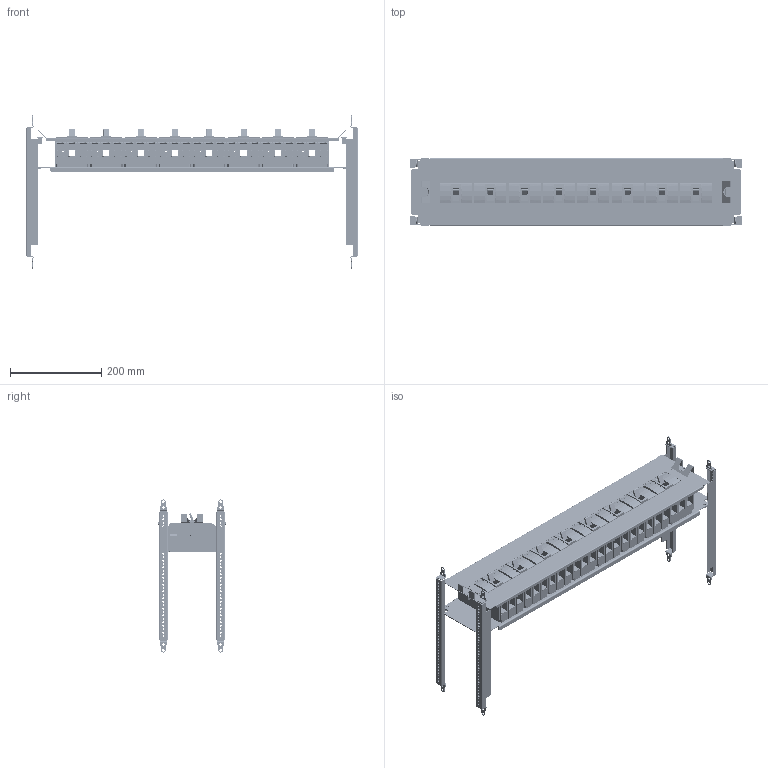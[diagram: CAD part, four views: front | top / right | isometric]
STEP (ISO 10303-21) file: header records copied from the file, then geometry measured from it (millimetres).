
FILE_DESCRIPTION(('CAx-IF Rec.Pracs.---Model Styling and Organization---1.2---2011-12-15','CAx-IF Rec.Pracs.---Geometric and Assembly Validation Properties---4.1---2014-06-16','CAx-IF Rec.Pracs.---PMI Polyline Presentation---2.0---2013-05-24'),'2;1');
FILE_NAME('R5PKIB7V81111.stp','2021-07-29T03:15:32+03:00',(''),(''),'STEP Interface 4.4 by CT CoreTechnologie','3D_Evolution4.4 by CT CoreTechnologie','');
FILE_SCHEMA(('AUTOMOTIVE_DESIGN { 1 0 10303 214 1 1 1 1 }'));
Length unit declared in the file: millimetre
Products named in the file (1): R5PKIB7V81111
Bounding box: 726 x 148 x 335 mm (x, y, z)
Surface area: 1137092.5 mm2 (no closed solid volume)
Topology: 0 solids, 120 shells, 6160 faces, 22616 edges, 16230 vertices
Faces by surface type: plane 4208, cylinder 1840, bspline 112
Entity records: 244298 total; most frequent: CARTESIAN_POINT 51551, DIRECTION 38796, ORIENTED_EDGE 38056, EDGE_CURVE 22608, VECTOR 17590, LINE 17590, VERTEX_POINT 16230, AXIS2_PLACEMENT_3D 10603
